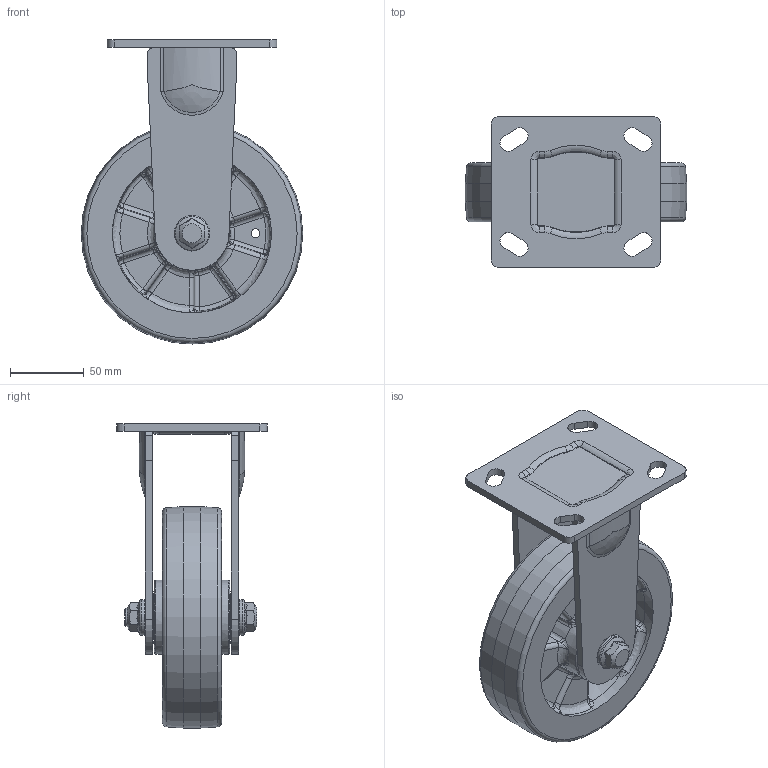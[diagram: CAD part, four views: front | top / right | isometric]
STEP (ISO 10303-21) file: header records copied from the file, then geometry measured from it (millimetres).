
FILE_DESCRIPTION((''),'2;1');
FILE_NAME('C:\Documents and Settings\Administrator\바탕 화면\3D STEP\GH-SERIES\GH-150\GH-150A-RF.stp','2010-12-27T14:25:46',('Administrator'),(''),'Autodesk Inventor 2009','Autodesk Inventor 2009','');
FILE_SCHEMA(('AUTOMOTIVE_DESIGN { 1 0 10303 214 1 1 1 1 }'));
Length unit declared in the file: millimetre
Products named in the file (1): GH-150A-RF
Bounding box: 150 x 102 x 206 mm (x, y, z)
Volume: 446136.3 mm3; surface area: 153609 mm2
Topology: 6 solids, 8 shells, 554 faces, 1311 edges, 744 vertices
Faces by surface type: bspline 269, plane 110, cylinder 103, cone 48, torus 24
Full cylindrical faces by diameter (mm): 6 x1, 12 x2, 15 x2, 15.2 x2, 21.5 x1, 24 x2, 30.5 x2, 35 x2, 35.18 x2, 150 x1
Entity records: 31489 total; most frequent: CARTESIAN_POINT 20484, ORIENTED_EDGE 2464, DIRECTION 1944, EDGE_CURVE 1232, AXIS2_PLACEMENT_3D 842, VERTEX_POINT 736, EDGE_LOOP 630, FACE_OUTER_BOUND 552
